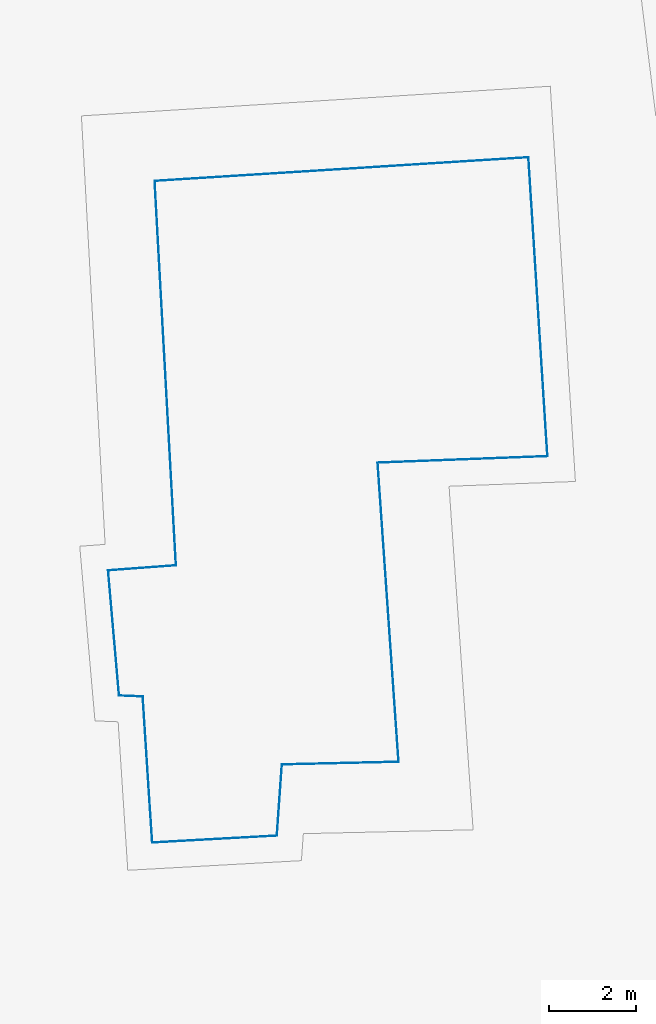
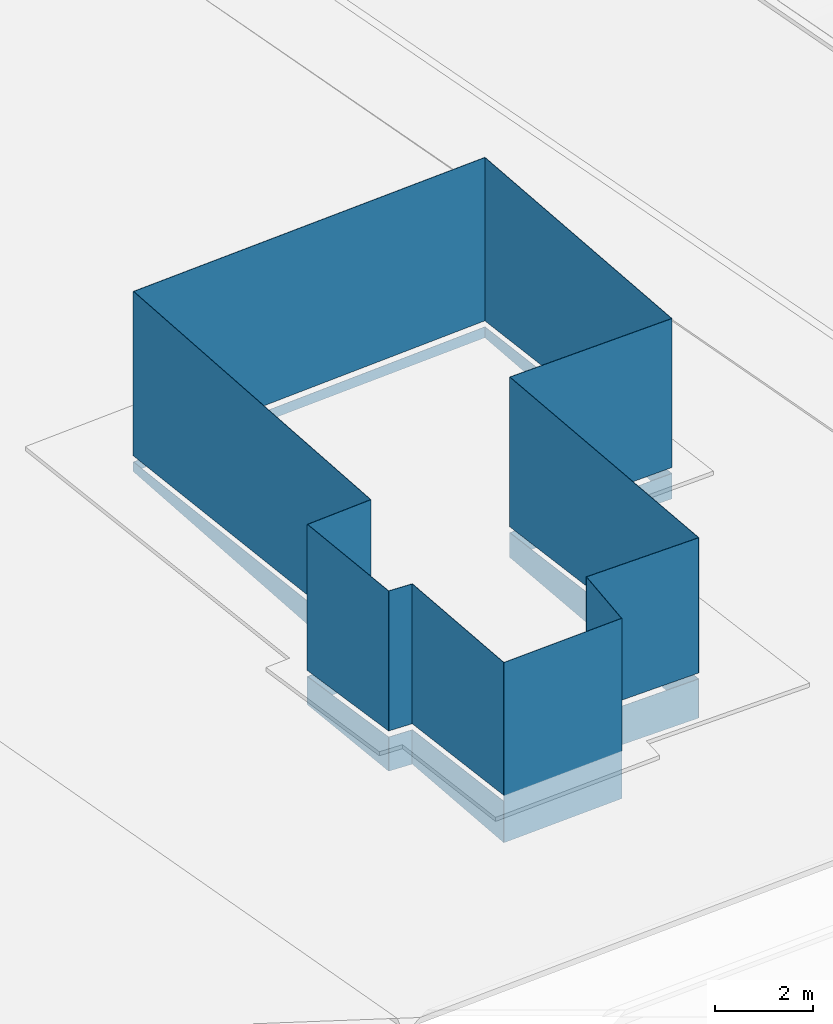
# One storey, part 20 of 75: 12 walls, 11 openings.
"""IFC2X3 building model written with IfcOpenShell, lengths in metres."""

from ifc_helpers import new_model, entity, si_unit, converted_unit, derived_unit, direction, frame, origin, place, context, subcontext, project, spatial, polyline, outline, extrude, clip, bounded_halfspace, material, layer, layer_set, layer_usage, type_object, element, save


model = new_model("IFC2X3")

# Units and contexts
model_context = context("Model", 3, precision=1e-05, world=origin(), true_north=direction((6.123031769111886e-17, 1.0)))
body_context = subcontext(model_context, "Body", "Model", "MODEL_VIEW")
ifc_project = project(units=[si_unit("LENGTHUNIT", "METRE"), si_unit("AREAUNIT", "SQUARE_METRE"), si_unit("VOLUMEUNIT", "CUBIC_METRE"), converted_unit("PLANEANGLEUNIT", "DEGREE", entity("IfcRatioMeasure", 0.017453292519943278), si_unit("PLANEANGLEUNIT", "RADIAN"), dimensions=[0, 0, 0, 0, 0, 0, 0]), si_unit("MASSUNIT", "GRAM", prefix="KILO"), derived_unit("MASSDENSITYUNIT", [(si_unit("MASSUNIT", "GRAM", prefix="KILO"), 1), (si_unit("LENGTHUNIT", "METRE"), -3)]), derived_unit("IONCONCENTRATIONUNIT", [(si_unit("MASSUNIT", "GRAM", prefix="KILO"), 1), (si_unit("LENGTHUNIT", "METRE"), -3)]), derived_unit("MOMENTOFINERTIAUNIT", [(si_unit("LENGTHUNIT", "METRE"), 4)]), si_unit("TIMEUNIT", "SECOND"), si_unit("FREQUENCYUNIT", "HERTZ"), si_unit("THERMODYNAMICTEMPERATUREUNIT", "DEGREE_CELSIUS"), derived_unit("THERMALTRANSMITTANCEUNIT", [(si_unit("MASSUNIT", "GRAM", prefix="KILO"), 1), (si_unit("THERMODYNAMICTEMPERATUREUNIT", "KELVIN"), -1), (si_unit("TIMEUNIT", "SECOND"), -3)]), derived_unit("THERMALCONDUCTANCEUNIT", [(si_unit("MASSUNIT", "GRAM", prefix="KILO"), 1), (si_unit("THERMODYNAMICTEMPERATUREUNIT", "KELVIN"), -1), (si_unit("TIMEUNIT", "SECOND"), -3), (si_unit("LENGTHUNIT", "METRE"), 1)]), derived_unit("VOLUMETRICFLOWRATEUNIT", [(si_unit("LENGTHUNIT", "METRE"), 3), (si_unit("TIMEUNIT", "SECOND"), -1)]), derived_unit("MASSFLOWRATEUNIT", [(si_unit("MASSUNIT", "GRAM", prefix="KILO"), 1), (si_unit("TIMEUNIT", "SECOND"), -1)]), derived_unit("ROTATIONALFREQUENCYUNIT", [(si_unit("TIMEUNIT", "SECOND"), -1)]), si_unit("ELECTRICCURRENTUNIT", "AMPERE"), si_unit("ELECTRICVOLTAGEUNIT", "VOLT"), si_unit("POWERUNIT", "WATT"), si_unit("FORCEUNIT", "NEWTON", prefix="KILO"), si_unit("ILLUMINANCEUNIT", "LUX"), si_unit("LUMINOUSFLUXUNIT", "LUMEN"), si_unit("LUMINOUSINTENSITYUNIT", "CANDELA"), derived_unit("USERDEFINED", [(si_unit("MASSUNIT", "GRAM", prefix="KILO"), -1), (si_unit("LENGTHUNIT", "METRE"), -2), (si_unit("TIMEUNIT", "SECOND"), 3), (si_unit("LUMINOUSFLUXUNIT", "LUMEN"), 1)]), derived_unit("USERDEFINED", [(si_unit("MASSUNIT", "GRAM", prefix="KILO"), 1), (si_unit("TIMEUNIT", "SECOND"), -3), (si_unit("LENGTHUNIT", "METRE"), 3), (si_unit("ELECTRICCURRENTUNIT", "AMPERE"), -2)]), derived_unit("SOUNDPOWERUNIT", [(si_unit("MASSUNIT", "GRAM", prefix="KILO"), 1), (si_unit("TIMEUNIT", "SECOND"), -3), (si_unit("LENGTHUNIT", "METRE"), 2)]), derived_unit("SOUNDPRESSUREUNIT", [(si_unit("MASSUNIT", "GRAM", prefix="KILO"), 1), (si_unit("LENGTHUNIT", "METRE"), -1), (si_unit("TIMEUNIT", "SECOND"), -2)]), derived_unit("LINEARVELOCITYUNIT", [(si_unit("LENGTHUNIT", "METRE"), 1), (si_unit("TIMEUNIT", "SECOND"), -1)]), si_unit("PRESSUREUNIT", "PASCAL"), derived_unit("USERDEFINED", [(si_unit("MASSUNIT", "GRAM", prefix="KILO"), 1), (si_unit("LENGTHUNIT", "METRE"), -2), (si_unit("TIMEUNIT", "SECOND"), -2)]), derived_unit("LINEARFORCEUNIT", [(si_unit("MASSUNIT", "GRAM", prefix="KILO"), 1), (si_unit("TIMEUNIT", "SECOND"), -2)]), derived_unit("PLANARFORCEUNIT", [(si_unit("MASSUNIT", "GRAM", prefix="KILO"), 1), (si_unit("LENGTHUNIT", "METRE"), -1), (si_unit("TIMEUNIT", "SECOND"), -2)]), derived_unit("SPECIFICHEATCAPACITYUNIT", [(si_unit("THERMODYNAMICTEMPERATUREUNIT", "KELVIN"), -1), (si_unit("LENGTHUNIT", "METRE"), 2), (si_unit("TIMEUNIT", "SECOND"), -2)]), derived_unit("HEATINGVALUEUNIT", [(si_unit("LENGTHUNIT", "METRE"), 2), (si_unit("TIMEUNIT", "SECOND"), -2)]), derived_unit("VAPORPERMEABILITYUNIT", [(si_unit("LENGTHUNIT", "METRE"), -1), (si_unit("TIMEUNIT", "SECOND"), 1)]), derived_unit("DYNAMICVISCOSITYUNIT", [(si_unit("MASSUNIT", "GRAM", prefix="KILO"), 1), (si_unit("TIMEUNIT", "SECOND"), -1), (si_unit("LENGTHUNIT", "METRE"), -1)]), derived_unit("THERMALEXPANSIONCOEFFICIENTUNIT", [(si_unit("THERMODYNAMICTEMPERATUREUNIT", "KELVIN"), -1)]), derived_unit("MODULUSOFELASTICITYUNIT", [(si_unit("MASSUNIT", "GRAM", prefix="KILO"), 1), (si_unit("LENGTHUNIT", "METRE"), -1), (si_unit("TIMEUNIT", "SECOND"), -2)]), derived_unit("ISOTHERMALMOISTURECAPACITYUNIT", [(si_unit("LENGTHUNIT", "METRE"), 3), (si_unit("MASSUNIT", "GRAM", prefix="KILO"), -1)]), derived_unit("MOISTUREDIFFUSIVITYUNIT", [(si_unit("TIMEUNIT", "SECOND"), -1), (si_unit("LENGTHUNIT", "METRE"), 2)])], contexts=[model_context])

# Site, building, storey
site_placement = place(None, origin())
site = spatial("IfcSite", under=ifc_project, at=site_placement, Name="Default", CompositionType="ELEMENT")
building_placement = place(site_placement, origin())
building = spatial("IfcBuilding", under=site, at=building_placement, Name="Projeto", CompositionType="ELEMENT")
storey_placement = place(building_placement, origin())
storey = spatial("IfcBuildingStorey", under=building, at=storey_placement, Name="Nível 1", CompositionType="ELEMENT", Elevation=0.0)

# Wall, opening
ifc_material = material(Name="Metal")
ifc_layer = layer(ifc_material, 0.01)
ifc_layer_set = layer_set([ifc_layer], Name="Parede básica:JA_Aluminio")
ifc_layer_usage = layer_usage(ifc_layer_set, "AXIS2", "NEGATIVE", 0.005)
wall_type = type_object("IfcWallType", Name="Parede básica:JA_Aluminio", PredefinedType="STANDARD", material=ifc_layer_set)
wall_1_placement = place(storey_placement, frame((-45.88046637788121, -8.186207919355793, -1.4999999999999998), z_axis=(0.0, 0.0, 1.0), x_axis=(-0.055274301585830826, 0.9984712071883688, 0.0)))
wall_1 = element("IfcWallStandardCase", 1, at=wall_1_placement, inside=storey, type_object=wall_type, material=ifc_layer_usage, Name="Parede básica:JA_Aluminio", ObjectType="Parede básica:JA_Aluminio", context=body_context, shape_type="Clipping", body=[
    clip(extrude(outline(polyline([(8.88283850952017, -0.004999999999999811), (8.882759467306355, 0.005000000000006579), (0.010001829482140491, 0.0050000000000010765), (0.0, 0.005000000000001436), (0.00019129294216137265, -0.005000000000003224), (8.872838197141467, -0.0050000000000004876), (8.88283850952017, -0.004999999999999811)])), origin(), (0.0, 0.0, 1.0), 4.5), bounded_halfspace(frame((0.00019129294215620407, -0.004999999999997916, 4.5), z_axis=(0.0, 0.0, -1.0), x_axis=(0.007903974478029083, -0.9999687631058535, 0.0)), True, frame((0.00019129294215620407, -0.004999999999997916, 4.5)), polyline([(0.0, 0.0), (8.872646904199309, 0.0), (8.88264721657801, 0.0), (8.882568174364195, 0.01000000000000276), (0.009810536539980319, 0.009999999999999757), (-0.00019129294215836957, 0.010000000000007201), (0.0, 0.0)]))),
])
opening_1_placement = place(storey_placement, frame((-45.88046637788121, -8.186207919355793, -1.4999999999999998), z_axis=(0.0, 0.0, 1.0), x_axis=(-0.055274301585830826, 0.9984712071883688, 0.0)))
element("IfcOpeningElement", 2, at=opening_1_placement, cuts=wall_1, Name="Parede básica:JA_Aluminio:1", ObjectType="Opening", context=body_context, shape_type="SweptSolid", body=[
    extrude(outline(polyline([(-4.447299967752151, -0.0050000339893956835), (4.437437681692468, -0.005000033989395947), (4.447451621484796, -0.005000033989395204), (4.447374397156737, 0.005000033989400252), (-4.43747413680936, 0.005000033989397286), (-4.447489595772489, 0.0050000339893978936), (-4.447299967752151, -0.0050000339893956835)])), frame((4.4414382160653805, 0.0, 0.4740216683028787), z_axis=(0.0521517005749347, 0.0036872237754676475, 0.9986323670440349), x_axis=(0.9986391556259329, 0.0, -0.05215205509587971)), (-0.05215205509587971, -0.00368220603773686, 0.9986323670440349), 0.1506171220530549),
])

wall_2_placement = place(storey_placement, frame((-46.36622977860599, 0.6783319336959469, -1.4999999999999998), z_axis=(0.0, 0.0, 1.0), x_axis=(0.9980031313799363, 0.06316446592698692, 0.0)))
wall_2 = element("IfcWallStandardCase", 3, at=wall_2_placement, inside=storey, type_object=wall_type, material=ifc_layer_usage, Name="Parede básica:JA_Aluminio", ObjectType="Parede básica:JA_Aluminio", context=body_context, shape_type="Clipping", body=[
    clip(extrude(outline(polyline([(8.631894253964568, -0.004999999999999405), (8.631891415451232, 0.00500000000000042), (7.904221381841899e-05, 0.005000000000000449), (0.0, -0.004999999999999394), (8.621894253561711, -0.0049999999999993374), (8.631894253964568, -0.004999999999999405)])), origin(), (0.0, 0.0, 1.0), 4.5), bounded_halfspace(frame((0.0, -0.004999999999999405, 4.5), z_axis=(0.0, 0.0, -1.0), x_axis=(1.0, 0.0, 0.0)), True, frame((0.0, -0.004999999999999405, 4.5)), polyline([(0.0, 0.0), (8.6218942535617, 0.0), (8.63189425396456, 0.0), (8.631891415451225, 0.010000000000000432), (7.904221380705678e-05, 0.009999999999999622), (0.0, 0.0)]))),
])
opening_2_placement = place(storey_placement, frame((-46.36622977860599, 0.6783319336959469, -1.4999999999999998), z_axis=(0.0, 0.0, 1.0), x_axis=(0.9980031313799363, 0.06316446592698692, 0.0)))
element("IfcOpeningElement", 4, at=opening_2_placement, cuts=wall_2, Name="Parede básica:JA_Aluminio:1", ObjectType="Opening", context=body_context, shape_type="SweptSolid", body=[
    extrude(outline(polyline([(-4.315988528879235, -0.005006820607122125), (4.315952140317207, -0.005006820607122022), (4.315947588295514, 0.005006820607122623), (-4.315911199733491, 0.005006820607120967), (-4.315988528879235, -0.005006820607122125)])), frame((4.315966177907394, 0.0, 0.25651105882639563), z_axis=(-0.0032749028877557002, 0.05217921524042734, 0.9986323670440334), x_axis=(0.9999946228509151, 0.0, 0.0032793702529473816)), (0.0032793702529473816, -0.05217893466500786, 0.9986323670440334), 0.15061712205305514),
])

wall_3_placement = place(storey_placement, frame((-37.75624656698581, 1.2182565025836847, -1.4999999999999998), z_axis=(0.0, 0.0, 1.0), x_axis=(0.0634477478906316, -0.997985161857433, 0.0)))
wall_3 = element("IfcWallStandardCase", 5, at=wall_3_placement, inside=storey, type_object=wall_type, material=ifc_layer_usage, Name="Parede básica:JA_Aluminio", ObjectType="Parede básica:JA_Aluminio", context=body_context, shape_type="Clipping", body=[
    clip(extrude(outline(polyline([(6.902568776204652, -0.005000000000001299), (6.902822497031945, 0.005000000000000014), (2.8385133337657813e-06, 0.0050000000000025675), (0.0, -0.0049999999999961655), (6.892565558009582, -0.005000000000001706), (6.902568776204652, -0.005000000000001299)])), origin(), (0.0, 0.0, 1.0), 4.5), bounded_halfspace(frame((0.0, -0.00500000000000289, 4.5), z_axis=(0.0, 0.0, -1.0), x_axis=(0.00028385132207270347, 0.9999999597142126, 0.0)), True, frame((0.0, -0.00500000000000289, 4.5)), polyline([(0.0, 0.0), (6.892565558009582, 0.0), (6.902568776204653, 0.0), (6.902822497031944, 0.009999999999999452), (2.838513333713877e-06, 0.010000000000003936), (0.0, 0.0)]))),
])
opening_3_placement = place(storey_placement, frame((-37.75624656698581, 1.2182565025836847, -1.4999999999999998), z_axis=(0.0, 0.0, 1.0), x_axis=(0.0634477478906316, -0.997985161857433, 0.0)))
element("IfcOpeningElement", 6, at=opening_3_placement, cuts=wall_3, Name="Parede básica:JA_Aluminio:1", ObjectType="Opening", context=body_context, shape_type="SweptSolid", body=[
    extrude(outline(polyline([(-3.456057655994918, -0.005000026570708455), (3.4559274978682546, -0.005000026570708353), (3.456183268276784, 0.005000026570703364), (-3.456053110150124, 0.0050000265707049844), (-3.456057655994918, -0.005000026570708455)])), frame((3.451348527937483, 0.0, 0.45124793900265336), z_axis=(-0.05218014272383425, -0.0032600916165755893, 0.9986323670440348), x_axis=(0.9986376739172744, 0.0, 0.05218042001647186)), (0.05218042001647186, 0.0032556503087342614, 0.9986323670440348), 0.1506171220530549),
])

wall_4_placement = place(storey_placement, frame((-37.32347462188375, -5.665725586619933, -1.4999999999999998), z_axis=(0.0, 0.0, 1.0), x_axis=(-0.9992733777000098, -0.03811451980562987, 0.0)))
wall_4 = element("IfcWallStandardCase", 7, at=wall_4_placement, inside=storey, type_object=wall_type, material=ifc_layer_usage, Name="Parede básica:JA_Aluminio", ObjectType="Parede básica:JA_Aluminio", context=body_context, shape_type="Clipping", body=[
    clip(extrude(outline(polyline([(3.9171177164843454, -0.0050000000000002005), (3.9167988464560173, 0.004999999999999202), (3.906793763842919, 0.005000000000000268), (0.0, 0.005000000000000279), (0.0002537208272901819, -0.005000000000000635), (3.9171177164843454, -0.0050000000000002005)])), origin(), (0.0, 0.0, 1.0), 4.5), bounded_halfspace(frame((0.00025372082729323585, -0.004999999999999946, 4.5), z_axis=(0.0, 0.0, -1.0), x_axis=(-0.9996854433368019, -0.0250801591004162, 0.0)), True, frame((0.00025372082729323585, -0.004999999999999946, 4.5)), polyline([(0.0, 0.0), (3.916863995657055, 0.0), (3.916545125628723, 0.010000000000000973), (3.906540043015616, 0.009999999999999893), (-0.0002537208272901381, 0.010000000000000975), (0.0, 0.0)]))),
])
opening_4_placement = place(storey_placement, frame((-37.32347462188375, -5.665725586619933, -1.4999999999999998), z_axis=(0.0, 0.0, 1.0), x_axis=(-0.9992733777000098, -0.03811451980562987, 0.0)))
element("IfcOpeningElement", 8, at=opening_4_placement, cuts=wall_4, Name="Parede básica:JA_Aluminio:1", ObjectType="Opening", context=body_context, shape_type="SweptSolid", body=[
    extrude(outline(polyline([(-1.9583082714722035, -0.005006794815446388), (1.9585969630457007, -0.005006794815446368), (1.958275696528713, 0.005006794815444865), (-1.9585643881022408, 0.005006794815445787), (-1.9583082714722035, -0.005006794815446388)])), frame((1.9585425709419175, 0.0, 0.6223152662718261), z_axis=(0.004582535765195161, -0.05208066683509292, 0.9986323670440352), x_axis=(0.9999894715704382, 0.0, -0.004588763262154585)), (-0.004588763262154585, 0.05208011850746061, 0.9986323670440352), 0.15061712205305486),
])

wall_5_placement = place(storey_placement, frame((-41.23224910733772, -5.819659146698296, -1.4999999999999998), z_axis=(0.0, 0.0, 1.0), x_axis=(0.06994280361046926, -0.9975510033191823, 0.0)))
wall_5 = element("IfcWallStandardCase", 9, at=wall_5_placement, inside=storey, type_object=wall_type, material=ifc_layer_usage, Name="Parede básica:JA_Aluminio", ObjectType="Parede básica:JA_Aluminio", context=body_context, shape_type="Clipping", body=[
    clip(extrude(outline(polyline([(6.9117286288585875, -0.005000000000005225), (6.912201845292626, 0.004999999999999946), (0.00031887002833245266, 0.005000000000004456), (0.0, -0.0050000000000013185), (6.901717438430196, -0.005000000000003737), (6.9117286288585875, -0.005000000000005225)])), origin(), (0.0, 0.0, 1.0), 4.5), bounded_halfspace(frame((0.0, -0.0049999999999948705, 4.5), z_axis=(0.0, 0.0, -1.0), x_axis=(0.006793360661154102, 0.9999769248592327, 0.0)), True, frame((0.0, -0.0049999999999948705, 4.5)), polyline([(0.0, 0.0), (6.901717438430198, 0.0), (6.911728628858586, 0.0), (6.912201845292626, 0.009999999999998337), (0.00031887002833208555, 0.01000000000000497), (0.0, 0.0)]))),
])
opening_5_placement = place(storey_placement, frame((-41.23224910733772, -5.819659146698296, -1.4999999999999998), z_axis=(0.0, 0.0, 1.0), x_axis=(0.06994280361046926, -0.9975510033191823, 0.0)))
element("IfcOpeningElement", 10, at=opening_5_placement, cuts=wall_5, Name="Parede básica:JA_Aluminio:1", ObjectType="Opening", context=body_context, shape_type="SweptSolid", body=[
    extrude(outline(polyline([(-3.460781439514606, -0.005000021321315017), (3.4603833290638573, -0.005000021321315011), (3.460858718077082, 0.005000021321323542), (-3.460460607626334, 0.005000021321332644), (-3.460781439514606, -0.005000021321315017)])), frame((3.456062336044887, 0.0, 0.794258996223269), z_axis=(-0.05220025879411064, -0.0029203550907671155, 0.9986323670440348), x_axis=(0.9986366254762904, 0.0, 0.05220048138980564)), (0.05220048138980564, 0.002916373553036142, 0.9986323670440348), 0.1506171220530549),
])

wall_6_placement = place(storey_placement, frame((-40.753924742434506, -12.709811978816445, -1.4999999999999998), z_axis=(0.0, 0.0, 1.0), x_axis=(-0.9997420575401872, -0.022711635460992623, 0.0)))
wall_6 = element("IfcWallStandardCase", 11, at=wall_6_placement, inside=storey, type_object=wall_type, material=ifc_layer_usage, Name="Parede básica:JA_Aluminio", ObjectType="Parede básica:JA_Aluminio", context=body_context, shape_type="Clipping", body=[
    clip(extrude(outline(polyline([(2.69008064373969, -0.005000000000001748), (2.6910238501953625, 0.0049999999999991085), (2.6809794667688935, 0.004999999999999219), (0.0, 0.005000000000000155), (0.00047321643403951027, -0.005000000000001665), (2.69008064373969, -0.005000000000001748)])), origin(), (0.0, 0.0, 1.0), 4.5), bounded_halfspace(frame((0.0004732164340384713, -0.005000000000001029, 4.5), z_axis=(0.0, 0.0, -1.0), x_axis=(-0.9991802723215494, -0.04048188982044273, 0.0)), True, frame((0.0004732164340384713, -0.005000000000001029, 4.5)), polyline([(0.0, 0.0), (2.689607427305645, 0.0), (2.690550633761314, 0.009999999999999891), (2.6805062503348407, 0.010000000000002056), (-0.00047321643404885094, 0.010000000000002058), (0.0, 0.0)]))),
])
opening_6_placement = place(storey_placement, frame((-40.753924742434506, -12.709811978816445, -1.4999999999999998), z_axis=(0.0, 0.0, 1.0), x_axis=(-0.9997420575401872, -0.022711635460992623, 0.0)))
element("IfcOpeningElement", 12, at=opening_6_placement, cuts=wall_6, Name="Parede básica:JA_Aluminio:1", ObjectType="Opening", context=body_context, shape_type="SweptSolid", body=[
    extrude(outline(polyline([(-1.3449393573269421, -0.0050067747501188), (1.3447071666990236, -0.0050067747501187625), (1.3456475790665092, 0.005006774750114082), (-1.3454153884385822, 0.005006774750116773), (-1.3449393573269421, -0.0050067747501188)])), frame((1.3453944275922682, 0.0, 0.967363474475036), z_axis=(0.00538453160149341, -0.0520038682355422, 0.9986323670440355), x_axis=(0.9999854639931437, 0.0, -0.005391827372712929)), (-0.005391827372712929, 0.05200311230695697, 0.9986323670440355), 0.15061712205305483),
])

# Wall
wall_7_placement = place(storey_placement, frame((-43.550309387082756, -14.4110262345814, -1.5000000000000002), z_axis=(0.0, 0.0, 1.0), x_axis=(-0.9984624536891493, -0.0554321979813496, 0.0)))
element("IfcWallStandardCase", 13, at=wall_7_placement, inside=storey, type_object=wall_type, material=ifc_layer_usage, Name="Parede básica:JA_Aluminio", ObjectType="Parede básica:JA_Aluminio", context=body_context, shape_type="Clipping", body=[
    clip(extrude(outline(polyline([(2.8868707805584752, -0.004999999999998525), (2.8867766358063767, 0.0050000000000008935), (0.001274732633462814, 0.005000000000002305), (0.0, -0.004999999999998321), (0.010080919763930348, -0.004999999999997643), (2.8768703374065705, -0.004999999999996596), (2.8868707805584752, -0.004999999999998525)])), origin(), (0.0, 0.0, 1.0), 4.5), bounded_halfspace(frame((0.0, -0.004999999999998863, 4.5), z_axis=(0.0, 0.0, -1.0), x_axis=(-0.9999700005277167, -0.007745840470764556, 0.0)), True, frame((0.0, -0.004999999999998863, 4.5)), polyline([(0.0, 0.0), (0.01008091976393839, 0.0), (2.8768703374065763, 0.0), (2.886870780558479, 0.0), (2.886776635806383, 0.009999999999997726), (0.001274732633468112, 0.009999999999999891), (0.0, 0.0)]))),
])

# Wall, opening
wall_8_placement = place(storey_placement, frame((-43.439086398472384, -12.775343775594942, -1.4999999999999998), z_axis=(0.0, 0.0, 1.0), x_axis=(-0.0712683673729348, -0.9974571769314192, 0.0)))
wall_8 = element("IfcWallStandardCase", 14, at=wall_8_placement, inside=storey, type_object=wall_type, material=ifc_layer_usage, Name="Parede básica:JA_Aluminio", ObjectType="Parede básica:JA_Aluminio", context=body_context, shape_type="Clipping", body=[
    clip(extrude(outline(polyline([(1.635764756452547, -0.005000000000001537), (1.6344900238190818, 0.005000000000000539), (0.0, 0.005000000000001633), (0.0009432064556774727, -0.005000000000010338), (1.635764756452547, -0.005000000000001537)])), origin(), (0.0, 0.0, 1.0), 4.5), bounded_halfspace(frame((0.0009432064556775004, -0.00499999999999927, 4.5), z_axis=(0.0, 0.0, -1.0), x_axis=(-0.13412990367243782, 0.9909637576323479, 0.0)), True, frame((0.0009432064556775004, -0.00499999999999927, 4.5)), polyline([(0.0, 0.0), (1.6348215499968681, 0.0), (1.633546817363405, 0.010000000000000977), (-0.000943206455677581, 0.010000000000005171), (0.0, 0.0)]))),
])
opening_7_placement = place(storey_placement, frame((-43.439086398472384, -12.775343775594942, -1.4999999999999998), z_axis=(0.0, 0.0, 1.0), x_axis=(-0.0712683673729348, -0.9974571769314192, 0.0)))
element("IfcOpeningElement", 15, at=opening_7_placement, cuts=wall_8, Name="Parede básica:JA_Aluminio:1", ObjectType="Opening", context=body_context, shape_type="SweptSolid", body=[
    extrude(outline(polyline([(-0.8179346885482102, -0.005000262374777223), (0.8190398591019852, -0.0050002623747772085), (0.8177687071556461, 0.005000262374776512), (-0.8188738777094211, 0.0050002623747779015), (-0.8179346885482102, -0.005000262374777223)])), frame((0.8177994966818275, 0.0, 1.0023559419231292), z_axis=(-0.05126844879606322, -0.01024410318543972, 0.9986323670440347), x_axis=(0.998684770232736, 0.0, 0.0512711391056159)), (0.0512711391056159, 0.010230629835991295, 0.9986323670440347), 0.15061712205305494),
])

wall_9_placement = place(storey_placement, frame((-46.4280230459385, -14.56582931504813, -1.4999999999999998), z_axis=(0.0, 0.0, 1.0), x_axis=(-0.06482932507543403, 0.9978963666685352, 0.0)))
wall_9 = element("IfcWallStandardCase", 16, at=wall_9_placement, inside=storey, type_object=wall_type, material=ifc_layer_usage, Name="Parede básica:JA_Aluminio", ObjectType="Parede básica:JA_Aluminio", context=body_context, shape_type="Clipping", body=[
    clip(extrude(outline(polyline([(3.373016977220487, -0.0049999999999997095), (3.374085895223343, 0.0050000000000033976), (3.364028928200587, 0.005000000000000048), (9.414475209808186e-05, 0.0050000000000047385), (0.0, -0.00500000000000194), (3.373016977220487, -0.0049999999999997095)])), origin(), (0.0, 0.0, 1.0), 4.5), bounded_halfspace(frame((0.0, -0.005000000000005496, 4.5), z_axis=(0.0, 0.0, -1.0), x_axis=(-0.0016682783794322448, -0.9999986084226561, 0.0)), True, frame((0.0, -0.005000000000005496, 4.5)), polyline([(0.0, 0.0), (3.3730169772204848, 0.0), (3.3740858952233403, 0.010000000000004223), (3.364028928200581, 0.010000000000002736), (9.414475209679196e-05, 0.010000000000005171), (0.0, 0.0)]))),
])
opening_8_placement = place(storey_placement, frame((-46.4280230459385, -14.56582931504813, -1.4999999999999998), z_axis=(0.0, 0.0, 1.0), x_axis=(-0.06482932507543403, 0.9978963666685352, 0.0)))
element("IfcOpeningElement", 17, at=opening_8_placement, cuts=wall_9, Name="Parede básica:JA_Aluminio:1", ObjectType="Opening", context=body_context, shape_type="SweptSolid", body=[
    extrude(outline(polyline([(-1.6891015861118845, -0.005000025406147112), (1.6885175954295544, -0.005000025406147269), (1.6895896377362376, 0.005000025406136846), (-1.6890056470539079, 0.005000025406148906), (-1.6891015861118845, -0.005000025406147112)])), frame((1.68679925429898, 0.0, 0.9455751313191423), z_axis=(0.05218460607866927, 0.0031878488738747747, 0.9986323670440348), x_axis=(0.9986374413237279, 0.0, -0.05218487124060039)), (-0.05218487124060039, -0.003183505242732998, 0.9986323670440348), 0.1506171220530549),
])

wall_10_placement = place(storey_placement, frame((-47.19159432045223, -11.187339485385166, -1.4999999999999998), z_axis=(0.0, 0.0, 1.0), x_axis=(-0.08704990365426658, 0.9962039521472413, 0.0)))
wall_10 = element("IfcWallStandardCase", 18, at=wall_10_placement, inside=storey, type_object=wall_type, material=ifc_layer_usage, Name="Parede básica:JA_Aluminio", ObjectType="Parede básica:JA_Aluminio", context=body_context, shape_type="Clipping", body=[
    clip(extrude(outline(polyline([(2.905593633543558, -0.004999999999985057), (2.9057209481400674, 0.005000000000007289), (0.001294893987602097, 0.005000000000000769), (0.0, -0.0049999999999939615), (0.01008348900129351, -0.004999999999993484), (2.8955928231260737, -0.00499999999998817), (2.905593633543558, -0.004999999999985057)])), origin(), (0.0, 0.0, 1.0), 4.5), bounded_halfspace(frame((0.0, -0.0050000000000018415, 4.5), z_axis=(0.0, 0.0, -1.0), x_axis=(-0.023951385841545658, -0.9997131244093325, 0.0)), True, frame((0.0, -0.0050000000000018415, 4.5)), polyline([(0.0, 0.0), (0.010083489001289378, 0.0), (2.895592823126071, 0.0), (2.9055936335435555, 0.0), (2.905720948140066, 0.009999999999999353), (0.0012948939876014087, 0.00999999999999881), (0.0, 0.0)]))),
])
opening_9_placement = place(storey_placement, frame((-47.19159432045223, -11.187339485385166, -1.4999999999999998), z_axis=(0.0, 0.0, 1.0), x_axis=(-0.08704990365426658, 0.9962039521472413, 0.0)))
element("IfcOpeningElement", 19, at=opening_9_placement, cuts=wall_10, Name="Parede básica:JA_Aluminio:1", ObjectType="Opening", context=body_context, shape_type="SweptSolid", body=[
    extrude(outline(polyline([(-1.4550349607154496, -0.003333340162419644), (-1.444937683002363, -0.0033333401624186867), (1.444517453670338, -0.0033333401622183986), (1.4545319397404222, -0.0033333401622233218), (1.4546604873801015, 0.006666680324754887), (-1.4537372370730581, 0.006666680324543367), (-1.4550349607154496, -0.003333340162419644)])), frame((1.4530476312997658, -0.0016666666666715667, 0.7772137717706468), z_axis=(0.05224268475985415, 0.002024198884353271, 0.9986323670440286), x_axis=(0.9986344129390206, 0.0, -0.052242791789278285)), (-0.052242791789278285, -0.0020214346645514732, 0.9986323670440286), 0.15061712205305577),
])

wall_11_placement = place(storey_placement, frame((-47.43917314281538, -8.297326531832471, -1.4999999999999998), z_axis=(0.0, 0.0, 1.0), x_axis=(0.9972314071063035, 0.07436074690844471, 0.0)))
wall_11 = element("IfcWallStandardCase", 20, at=wall_11_placement, inside=storey, type_object=wall_type, material=ifc_layer_usage, Name="Parede básica:JA_Aluminio", ObjectType="Parede básica:JA_Aluminio", context=body_context, shape_type="Clipping", body=[
    clip(extrude(outline(polyline([(1.557655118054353, -0.005000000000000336), (1.5578464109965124, 0.004999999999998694), (0.0, 0.004999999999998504), (0.0001273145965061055, -0.005000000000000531), (1.557655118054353, -0.005000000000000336)])), origin(), (0.0, 0.0, 1.0), 4.5), bounded_halfspace(frame((0.00012731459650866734, -0.004999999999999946, 4.5), z_axis=(0.0, 0.0, -1.0), x_axis=(0.9999370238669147, -0.011222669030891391, 0.0)), True, frame((0.00012731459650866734, -0.004999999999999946, 4.5)), polyline([(0.0, 0.0), (1.557527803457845, 0.0), (1.5577190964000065, 0.009999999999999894), (-0.00012731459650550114, 0.009999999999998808), (0.0, 0.0)]))),
])
opening_10_placement = place(storey_placement, frame((-47.43917314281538, -8.297326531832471, -1.4999999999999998), z_axis=(0.0, 0.0, 1.0), x_axis=(0.9972314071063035, 0.07436074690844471, 0.0)))
element("IfcOpeningElement", 21, at=opening_10_placement, cuts=wall_11, Name="Parede básica:JA_Aluminio:1", ObjectType="Opening", context=body_context, shape_type="SweptSolid", body=[
    extrude(outline(polyline([(-0.7787820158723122, -0.005006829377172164), (0.7787514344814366, -0.005006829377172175), (0.778941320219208, 0.005006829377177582), (-0.7789107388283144, 0.0050068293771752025), (-0.7787820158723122, -0.005006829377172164)])), frame((0.7789072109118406, 0.0, 0.70359055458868), z_axis=(-0.002689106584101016, 0.05221268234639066, 0.998632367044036), x_axis=(0.9999963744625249, 0.0, 0.0026927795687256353)), (0.0026927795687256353, -0.05221249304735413, 0.998632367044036), 0.15061712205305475),
])

wall_12_placement = place(storey_placement, frame((-46.650892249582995, -11.204205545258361, -1.4999999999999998), z_axis=(0.0, 0.0, 1.0), x_axis=(-0.9991343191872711, 0.04160062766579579, 0.0)))
wall_12 = element("IfcWallStandardCase", 22, at=wall_12_placement, inside=storey, type_object=wall_type, material=ifc_layer_usage, Name="Parede básica:JA_Aluminio", ObjectType="Parede básica:JA_Aluminio", context=body_context, shape_type="Clipping", body=[
    clip(extrude(outline(polyline([(0.5372719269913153, -0.004999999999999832), (0.5359770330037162, 0.00499999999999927), (0.0, 0.005000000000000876), (0.0010689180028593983, -0.005000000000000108), (0.5372719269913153, -0.004999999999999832)])), origin(), (0.0, 0.0, 1.0), 4.5), bounded_halfspace(frame((0.0010689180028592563, -0.004999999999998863, 4.5), z_axis=(0.0, 0.0, -1.0), x_axis=(-0.9945114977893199, -0.10462734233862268, 0.0)), True, frame((0.0010689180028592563, -0.004999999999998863, 4.5)), polyline([(0.0, 0.0), (0.5362030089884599, 0.0), (0.5349081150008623, 0.009999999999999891), (-0.0010689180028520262, 0.009999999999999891), (0.0, 0.0)]))),
])
opening_11_placement = place(storey_placement, frame((-46.650892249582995, -11.204205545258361, -1.4999999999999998), z_axis=(0.0, 0.0, 1.0), x_axis=(-0.9991343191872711, 0.04160062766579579, 0.0)))
element("IfcOpeningElement", 23, at=opening_11_placement, cuts=wall_12, Name="Parede básica:JA_Aluminio:1", ObjectType="Opening", context=body_context, shape_type="SweptSolid", body=[
    extrude(outline(polyline([(-0.26751848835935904, -0.005006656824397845), (0.26870494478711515, -0.0050066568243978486), (0.26740549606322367, 0.005006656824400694), (-0.2685919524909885, 0.0050066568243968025), (-0.26751848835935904, -0.005006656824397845)])), frame((0.2685794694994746, 0.0, 0.855311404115), z_axis=(0.00871630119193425, -0.0515501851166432, 0.9986323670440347), x_axis=(0.9999619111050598, 0.0, -0.008727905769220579)), (-0.008727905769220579, 0.05154822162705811, 0.9986323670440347), 0.15061712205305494),
])

save(model, "model.ifc")
